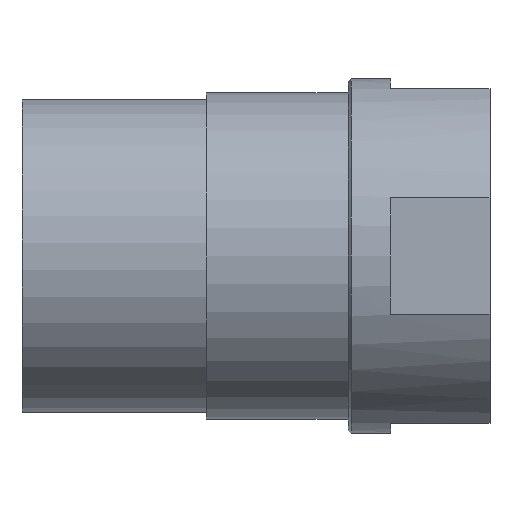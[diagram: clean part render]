
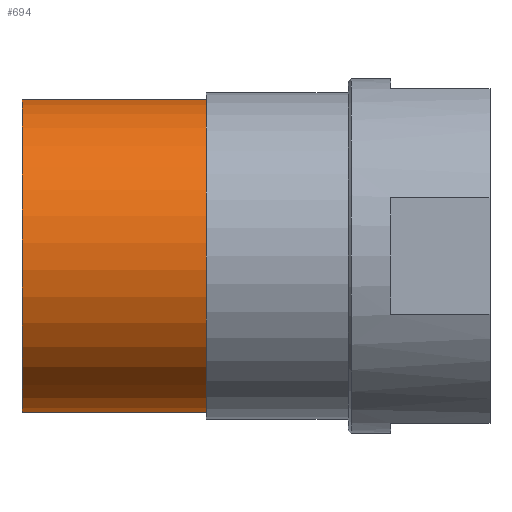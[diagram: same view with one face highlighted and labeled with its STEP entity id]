
A CAD part, front view. The second image highlights one B-rep face of the part: STEP entity #694.
In plain terms, the highlighted cylindrical face has radius 55.25 mm (diameter 110.5 mm), a partial arc.
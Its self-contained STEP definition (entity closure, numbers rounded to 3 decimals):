
#133 = AXIS2_PLACEMENT_3D ( 'NONE', #231, #232, #233 ) ;
#135 = AXIS2_PLACEMENT_3D ( 'NONE', #239, #240, #241 ) ;
#221 = DIRECTION ( 'NONE',  ( 1., 0., 0. ) ) ;
#222 = DIRECTION ( 'NONE',  ( 1., 0., 0. ) ) ;
#223 = CARTESIAN_POINT ( 'NONE',  ( -125., -5.089, 55.015 ) ) ;
#227 = CARTESIAN_POINT ( 'NONE',  ( -125., 5.089, -55.015 ) ) ;
#231 = CARTESIAN_POINT ( 'NONE',  ( -125., 0., 0. ) ) ;
#232 = DIRECTION ( 'NONE',  ( -1., 0., 0. ) ) ;
#233 = DIRECTION ( 'NONE',  ( 0., -0.092, 0.996 ) ) ;
#239 = CARTESIAN_POINT ( 'NONE',  ( -10., 0., 0. ) ) ;
#240 = DIRECTION ( 'NONE',  ( -1., 0., 0. ) ) ;
#241 = DIRECTION ( 'NONE',  ( 0., -0.092, 0.996 ) ) ;
#384 = EDGE_CURVE ( 'NONE', #2176, #2197, #523, .T. ) ;
#386 = EDGE_CURVE ( 'NONE', #2194, #2164, #528, .T. ) ;
#387 = EDGE_CURVE ( 'NONE', #2194, #2176, #526, .T. ) ;
#389 = EDGE_CURVE ( 'NONE', #2164, #2197, #532, .T. ) ;
#523 = LINE ( 'NONE', #223, #527 ) ;
#526 = CIRCLE ( 'NONE', #133, 55.25 ) ;
#527 = VECTOR ( 'NONE', #221, 1000. ) ;
#528 = LINE ( 'NONE', #227, #530 ) ;
#530 = VECTOR ( 'NONE', #222, 1000. ) ;
#532 = CIRCLE ( 'NONE', #135, 55.25 ) ;
#694 = ADVANCED_FACE ( 'NONE', ( #2076 ), #2084, .T. ) ;
#998 = ORIENTED_EDGE ( 'NONE', *, *, #384, .F. ) ;
#999 = ORIENTED_EDGE ( 'NONE', *, *, #387, .F. ) ;
#1000 = ORIENTED_EDGE ( 'NONE', *, *, #386, .T. ) ;
#1001 = ORIENTED_EDGE ( 'NONE', *, *, #389, .T. ) ;
#1297 = CARTESIAN_POINT ( 'NONE',  ( -10., 5.089, -55.015 ) ) ;
#1315 = CARTESIAN_POINT ( 'NONE',  ( -125., -5.089, 55.015 ) ) ;
#1333 = CARTESIAN_POINT ( 'NONE',  ( -125., 5.089, -55.015 ) ) ;
#1336 = CARTESIAN_POINT ( 'NONE',  ( -10., -5.089, 55.015 ) ) ;
#1520 = AXIS2_PLACEMENT_3D ( 'NONE', #2256, #2245, #2264 ) ;
#1980 = EDGE_LOOP ( 'NONE', ( #998, #999, #1000, #1001 ) ) ;
#2076 = FACE_OUTER_BOUND ( 'NONE', #1980, .T. ) ;
#2084 = CYLINDRICAL_SURFACE ( 'NONE', #1520, 55.25 ) ;
#2164 = VERTEX_POINT ( 'NONE', #1297 ) ;
#2176 = VERTEX_POINT ( 'NONE', #1315 ) ;
#2194 = VERTEX_POINT ( 'NONE', #1333 ) ;
#2197 = VERTEX_POINT ( 'NONE', #1336 ) ;
#2245 = DIRECTION ( 'NONE',  ( 1., 0., 0. ) ) ;
#2256 = CARTESIAN_POINT ( 'NONE',  ( -125., 0., 0. ) ) ;
#2264 = DIRECTION ( 'NONE',  ( 0., 0.092, -0.996 ) ) ;
